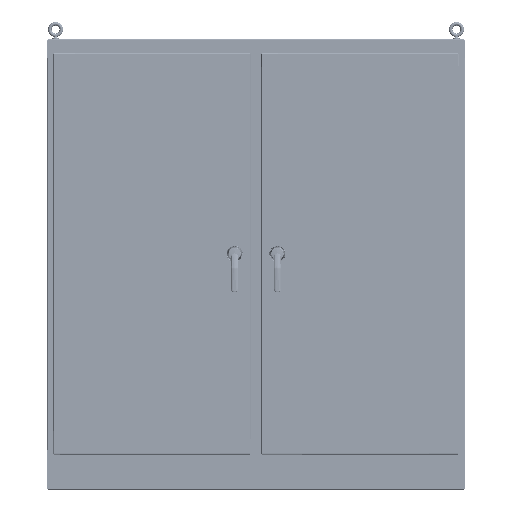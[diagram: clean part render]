
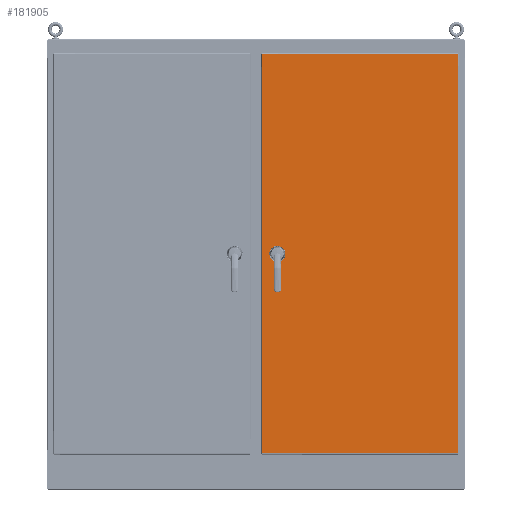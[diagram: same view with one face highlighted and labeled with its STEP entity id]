
A CAD part, top view. The second image highlights one B-rep face of the part: STEP entity #181905.
In plain terms, the highlighted planar face has unit normal (0, 0, 1).
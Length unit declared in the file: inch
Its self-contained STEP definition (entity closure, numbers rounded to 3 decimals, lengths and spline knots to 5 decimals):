
#933 = DIRECTION ( 'NONE',  ( 0., -1., 0. ) ) ;
#2902 = AXIS2_PLACEMENT_3D ( 'NONE', #141101, #213698, #178592 ) ;
#10353 = FACE_BOUND ( 'NONE', #97362, .T. ) ;
#13367 = DIRECTION ( 'NONE',  ( 0., 1., 0. ) ) ;
#23045 = CARTESIAN_POINT ( 'NONE',  ( -16.4855, 0., 0. ) ) ;
#27713 = VECTOR ( 'NONE', #13367, 39.37008 ) ;
#33830 = VERTEX_POINT ( 'NONE', #59042 ) ;
#35165 = EDGE_CURVE ( 'NONE', #211600, #33830, #64969, .T. ) ;
#36305 = EDGE_LOOP ( 'NONE', ( #76741, #102156 ) ) ;
#37659 = CARTESIAN_POINT ( 'NONE',  ( -18.32632, -37.272, 0. ) ) ;
#39222 = DIRECTION ( 'NONE',  ( 1., 0., 0. ) ) ;
#45304 = ORIENTED_EDGE ( 'NONE', *, *, #50698, .T. ) ;
#46223 = DIRECTION ( 'NONE',  ( -1., 0., 0. ) ) ;
#49820 = PLANE ( 'NONE',  #143259 ) ;
#50698 = EDGE_CURVE ( 'NONE', #192191, #144406, #120937, .T. ) ;
#53643 = VERTEX_POINT ( 'NONE', #151935 ) ;
#55641 = CARTESIAN_POINT ( 'NONE',  ( -14.3925, 0., 0. ) ) ;
#58793 = DIRECTION ( 'NONE',  ( -1., 0., 0. ) ) ;
#59042 = CARTESIAN_POINT ( 'NONE',  ( -15.72, 0., 0. ) ) ;
#61422 = CARTESIAN_POINT ( 'NONE',  ( 18.32632, 37.272, 0. ) ) ;
#62125 = CARTESIAN_POINT ( 'NONE',  ( -18.234, -37.272, 0. ) ) ;
#64969 = CIRCLE ( 'NONE', #131800, 0.281 ) ;
#66203 = DIRECTION ( 'NONE',  ( 0., 0., -1. ) ) ;
#67800 = VERTEX_POINT ( 'NONE', #117462 ) ;
#69023 = CARTESIAN_POINT ( 'NONE',  ( -15.439, 0., 0. ) ) ;
#70369 = CARTESIAN_POINT ( 'NONE',  ( -18.234, 37.36432, 0. ) ) ;
#70806 = AXIS2_PLACEMENT_3D ( 'NONE', #82809, #100766, #46223 ) ;
#75815 = DIRECTION ( 'NONE',  ( -1., 0., 0. ) ) ;
#76741 = ORIENTED_EDGE ( 'NONE', *, *, #98136, .T. ) ;
#82809 = CARTESIAN_POINT ( 'NONE',  ( -16.345, 0., 0. ) ) ;
#83384 = CARTESIAN_POINT ( 'NONE',  ( -14.533, 0., 0. ) ) ;
#86980 = DIRECTION ( 'NONE',  ( 0., 0., -1. ) ) ;
#94618 = LINE ( 'NONE', #229452, #27713 ) ;
#97362 = EDGE_LOOP ( 'NONE', ( #229221, #105030 ) ) ;
#98136 = EDGE_CURVE ( 'NONE', #176673, #53643, #202855, .T. ) ;
#98245 = CARTESIAN_POINT ( 'NONE',  ( -18.234, 37.272, 0. ) ) ;
#98942 = EDGE_CURVE ( 'NONE', #221308, #215750, #152672, .T. ) ;
#99141 = ORIENTED_EDGE ( 'NONE', *, *, #175813, .T. ) ;
#100766 = DIRECTION ( 'NONE',  ( 0., 0., -1. ) ) ;
#100965 = ORIENTED_EDGE ( 'NONE', *, *, #130192, .T. ) ;
#102156 = ORIENTED_EDGE ( 'NONE', *, *, #143773, .T. ) ;
#105030 = ORIENTED_EDGE ( 'NONE', *, *, #35165, .T. ) ;
#109351 = DIRECTION ( 'NONE',  ( 0., 0., -1. ) ) ;
#110415 = CIRCLE ( 'NONE', #206673, 0.281 ) ;
#113816 = EDGE_CURVE ( 'NONE', #67800, #221308, #94618, .T. ) ;
#117462 = CARTESIAN_POINT ( 'NONE',  ( 18.234, -37.272, 0. ) ) ;
#120937 = CIRCLE ( 'NONE', #230081, 0.1405 ) ;
#121508 = DIRECTION ( 'NONE',  ( 0., 0., 1. ) ) ;
#122822 = LINE ( 'NONE', #70369, #139695 ) ;
#130192 = EDGE_CURVE ( 'NONE', #203426, #67800, #211172, .T. ) ;
#131800 = AXIS2_PLACEMENT_3D ( 'NONE', #69023, #86980, #211908 ) ;
#139695 = VECTOR ( 'NONE', #933, 39.37008 ) ;
#141101 = CARTESIAN_POINT ( 'NONE',  ( -14.533, 0., 0. ) ) ;
#143259 = AXIS2_PLACEMENT_3D ( 'NONE', #226944, #121508, #209084 ) ;
#143773 = EDGE_CURVE ( 'NONE', #53643, #176673, #150081, .T. ) ;
#144406 = VERTEX_POINT ( 'NONE', #229864 ) ;
#147976 = EDGE_LOOP ( 'NONE', ( #152910, #45304 ) ) ;
#150081 = CIRCLE ( 'NONE', #70806, 0.1405 ) ;
#151616 = EDGE_CURVE ( 'NONE', #33830, #211600, #110415, .T. ) ;
#151935 = CARTESIAN_POINT ( 'NONE',  ( -16.2045, 0., 0. ) ) ;
#152480 = ORIENTED_EDGE ( 'NONE', *, *, #113816, .T. ) ;
#152672 = LINE ( 'NONE', #61422, #197254 ) ;
#152910 = ORIENTED_EDGE ( 'NONE', *, *, #203171, .T. ) ;
#165744 = CARTESIAN_POINT ( 'NONE',  ( -15.439, 0., 0. ) ) ;
#166658 = FACE_OUTER_BOUND ( 'NONE', #215263, .T. ) ;
#170603 = AXIS2_PLACEMENT_3D ( 'NONE', #230401, #109351, #75815 ) ;
#172214 = FACE_BOUND ( 'NONE', #147976, .T. ) ;
#175610 = CARTESIAN_POINT ( 'NONE',  ( 18.234, 37.272, 0. ) ) ;
#175813 = EDGE_CURVE ( 'NONE', #215750, #203426, #122822, .T. ) ;
#176673 = VERTEX_POINT ( 'NONE', #23045 ) ;
#178592 = DIRECTION ( 'NONE',  ( -1., 0., 0. ) ) ;
#181905 = ADVANCED_FACE ( 'NONE', ( #214078, #172214, #10353, #166658 ), #49820, .T. ) ;
#186162 = ORIENTED_EDGE ( 'NONE', *, *, #98942, .T. ) ;
#192191 = VERTEX_POINT ( 'NONE', #55641 ) ;
#192586 = CIRCLE ( 'NONE', #2902, 0.1405 ) ;
#197254 = VECTOR ( 'NONE', #205078, 39.37008 ) ;
#202855 = CIRCLE ( 'NONE', #170603, 0.1405 ) ;
#203171 = EDGE_CURVE ( 'NONE', #144406, #192191, #192586, .T. ) ;
#203426 = VERTEX_POINT ( 'NONE', #62125 ) ;
#205078 = DIRECTION ( 'NONE',  ( -1., 0., 0. ) ) ;
#206673 = AXIS2_PLACEMENT_3D ( 'NONE', #165744, #220297, #58793 ) ;
#208356 = DIRECTION ( 'NONE',  ( -1., 0., 0. ) ) ;
#209084 = DIRECTION ( 'NONE',  ( 1., 0., 0. ) ) ;
#211172 = LINE ( 'NONE', #37659, #216706 ) ;
#211600 = VERTEX_POINT ( 'NONE', #221905 ) ;
#211908 = DIRECTION ( 'NONE',  ( -1., 0., 0. ) ) ;
#213698 = DIRECTION ( 'NONE',  ( 0., 0., -1. ) ) ;
#214078 = FACE_BOUND ( 'NONE', #36305, .T. ) ;
#215263 = EDGE_LOOP ( 'NONE', ( #99141, #100965, #152480, #186162 ) ) ;
#215750 = VERTEX_POINT ( 'NONE', #98245 ) ;
#216706 = VECTOR ( 'NONE', #39222, 39.37008 ) ;
#220297 = DIRECTION ( 'NONE',  ( 0., 0., -1. ) ) ;
#221308 = VERTEX_POINT ( 'NONE', #175610 ) ;
#221905 = CARTESIAN_POINT ( 'NONE',  ( -15.158, 0., 0. ) ) ;
#226944 = CARTESIAN_POINT ( 'NONE',  ( -18.439, -37.477, 0. ) ) ;
#229221 = ORIENTED_EDGE ( 'NONE', *, *, #151616, .T. ) ;
#229452 = CARTESIAN_POINT ( 'NONE',  ( 18.234, -37.36432, 0. ) ) ;
#229864 = CARTESIAN_POINT ( 'NONE',  ( -14.6735, 0., 0. ) ) ;
#230081 = AXIS2_PLACEMENT_3D ( 'NONE', #83384, #66203, #208356 ) ;
#230401 = CARTESIAN_POINT ( 'NONE',  ( -16.345, 0., 0. ) ) ;
